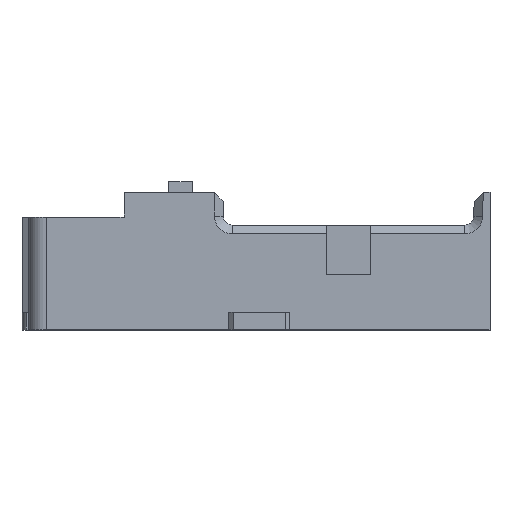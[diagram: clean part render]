
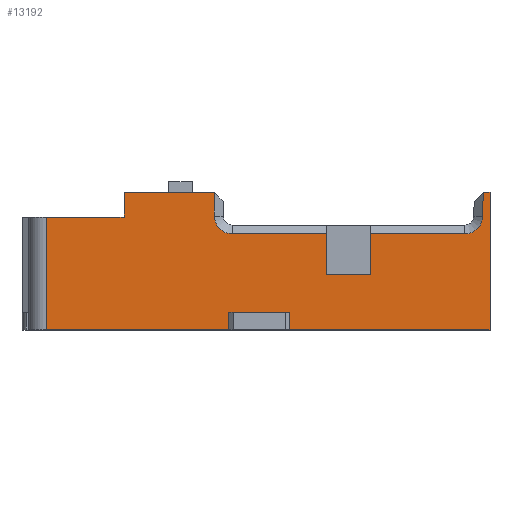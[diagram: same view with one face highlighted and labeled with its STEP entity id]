
A CAD part, top view. The second image highlights one B-rep face of the part: STEP entity #13192.
In plain terms, the highlighted planar face has unit normal (0, 0, 1).
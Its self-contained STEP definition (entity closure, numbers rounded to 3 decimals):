
#296=CIRCLE('',#14015,4.);
#297=CIRCLE('',#14016,4.);
#1040=ORIENTED_EDGE('',*,*,#4566,.F.);
#1041=ORIENTED_EDGE('',*,*,#4982,.T.);
#1042=ORIENTED_EDGE('',*,*,#4614,.T.);
#1043=ORIENTED_EDGE('',*,*,#4983,.T.);
#1044=ORIENTED_EDGE('',*,*,#4984,.T.);
#1045=ORIENTED_EDGE('',*,*,#4985,.F.);
#1046=ORIENTED_EDGE('',*,*,#4609,.T.);
#1047=ORIENTED_EDGE('',*,*,#4986,.F.);
#1048=ORIENTED_EDGE('',*,*,#4987,.T.);
#1049=ORIENTED_EDGE('',*,*,#4988,.T.);
#1050=ORIENTED_EDGE('',*,*,#4623,.T.);
#1051=ORIENTED_EDGE('',*,*,#4989,.F.);
#1052=ORIENTED_EDGE('',*,*,#4990,.F.);
#1053=ORIENTED_EDGE('',*,*,#4991,.T.);
#1054=ORIENTED_EDGE('',*,*,#4992,.T.);
#1055=ORIENTED_EDGE('',*,*,#4993,.T.);
#1056=ORIENTED_EDGE('',*,*,#4994,.F.);
#1057=ORIENTED_EDGE('',*,*,#4995,.F.);
#1058=ORIENTED_EDGE('',*,*,#4996,.T.);
#1059=ORIENTED_EDGE('',*,*,#4997,.T.);
#1060=ORIENTED_EDGE('',*,*,#4998,.T.);
#1061=ORIENTED_EDGE('',*,*,#4999,.T.);
#1062=ORIENTED_EDGE('',*,*,#5000,.F.);
#1063=ORIENTED_EDGE('',*,*,#5001,.F.);
#4566=EDGE_CURVE('',#6555,#6556,#7849,.T.);
#4609=EDGE_CURVE('',#6599,#6598,#7892,.T.);
#4614=EDGE_CURVE('',#6603,#6604,#7896,.T.);
#4623=EDGE_CURVE('',#6613,#6612,#7904,.T.);
#4982=EDGE_CURVE('',#6555,#6603,#8189,.T.);
#4983=EDGE_CURVE('',#6604,#6947,#8190,.T.);
#4984=EDGE_CURVE('',#6947,#6948,#8191,.T.);
#4985=EDGE_CURVE('',#6599,#6948,#8192,.T.);
#4986=EDGE_CURVE('',#6949,#6598,#8193,.T.);
#4987=EDGE_CURVE('',#6949,#6950,#8194,.T.);
#4988=EDGE_CURVE('',#6950,#6613,#8195,.T.);
#4989=EDGE_CURVE('',#6951,#6612,#8196,.T.);
#4990=EDGE_CURVE('',#6952,#6951,#8197,.T.);
#4991=EDGE_CURVE('',#6952,#6953,#8198,.T.);
#4992=EDGE_CURVE('',#6953,#6954,#296,.T.);
#4993=EDGE_CURVE('',#6954,#6955,#8199,.T.);
#4994=EDGE_CURVE('',#6956,#6955,#8200,.T.);
#4995=EDGE_CURVE('',#6957,#6956,#8201,.T.);
#4996=EDGE_CURVE('',#6957,#6958,#8202,.T.);
#4997=EDGE_CURVE('',#6958,#6959,#8203,.T.);
#4998=EDGE_CURVE('',#6959,#6960,#297,.T.);
#4999=EDGE_CURVE('',#6960,#6961,#8204,.T.);
#5000=EDGE_CURVE('',#6962,#6961,#8205,.T.);
#5001=EDGE_CURVE('',#6556,#6962,#8206,.T.);
#6555=VERTEX_POINT('',#18759);
#6556=VERTEX_POINT('',#18761);
#6598=VERTEX_POINT('',#18856);
#6599=VERTEX_POINT('',#18858);
#6603=VERTEX_POINT('',#18867);
#6604=VERTEX_POINT('',#18868);
#6612=VERTEX_POINT('',#18884);
#6613=VERTEX_POINT('',#18886);
#6947=VERTEX_POINT('',#19617);
#6948=VERTEX_POINT('',#19619);
#6949=VERTEX_POINT('',#19622);
#6950=VERTEX_POINT('',#19624);
#6951=VERTEX_POINT('',#19627);
#6952=VERTEX_POINT('',#19629);
#6953=VERTEX_POINT('',#19631);
#6954=VERTEX_POINT('',#19633);
#6955=VERTEX_POINT('',#19635);
#6956=VERTEX_POINT('',#19637);
#6957=VERTEX_POINT('',#19639);
#6958=VERTEX_POINT('',#19641);
#6959=VERTEX_POINT('',#19643);
#6960=VERTEX_POINT('',#19645);
#6961=VERTEX_POINT('',#19647);
#6962=VERTEX_POINT('',#19649);
#7849=LINE('',#18760,#9500);
#7892=LINE('',#18857,#9543);
#7896=LINE('',#18866,#9547);
#7904=LINE('',#18885,#9555);
#8189=LINE('',#19615,#9840);
#8190=LINE('',#19616,#9841);
#8191=LINE('',#19618,#9842);
#8192=LINE('',#19620,#9843);
#8193=LINE('',#19621,#9844);
#8194=LINE('',#19623,#9845);
#8195=LINE('',#19625,#9846);
#8196=LINE('',#19626,#9847);
#8197=LINE('',#19628,#9848);
#8198=LINE('',#19630,#9849);
#8199=LINE('',#19634,#9850);
#8200=LINE('',#19636,#9851);
#8201=LINE('',#19638,#9852);
#8202=LINE('',#19640,#9853);
#8203=LINE('',#19642,#9854);
#8204=LINE('',#19646,#9855);
#8205=LINE('',#19648,#9856);
#8206=LINE('',#19650,#9857);
#9500=VECTOR('',#14994,1000.);
#9543=VECTOR('',#15059,1000.);
#9547=VECTOR('',#15065,1000.);
#9555=VECTOR('',#15075,1000.);
#9840=VECTOR('',#15582,1000.);
#9841=VECTOR('',#15583,1000.);
#9842=VECTOR('',#15584,1000.);
#9843=VECTOR('',#15585,1000.);
#9844=VECTOR('',#15586,1000.);
#9845=VECTOR('',#15587,1000.);
#9846=VECTOR('',#15588,1000.);
#9847=VECTOR('',#15589,1000.);
#9848=VECTOR('',#15590,1000.);
#9849=VECTOR('',#15591,1000.);
#9850=VECTOR('',#15594,1000.);
#9851=VECTOR('',#15595,1000.);
#9852=VECTOR('',#15596,1000.);
#9853=VECTOR('',#15597,1000.);
#9854=VECTOR('',#15598,1000.);
#9855=VECTOR('',#15601,1000.);
#9856=VECTOR('',#15602,1000.);
#9857=VECTOR('',#15603,1000.);
#11175=EDGE_LOOP('',(#1040,#1041,#1042,#1043,#1044,#1045,#1046,#1047,#1048,
#1049,#1050,#1051,#1052,#1053,#1054,#1055,#1056,#1057,#1058,#1059,#1060,
#1061,#1062,#1063));
#11920=FACE_BOUND('',#11175,.T.);
#12655=PLANE('',#14014);
#13192=ADVANCED_FACE('',(#11920),#12655,.F.);
#14014=AXIS2_PLACEMENT_3D('',#19614,#15580,#15581);
#14015=AXIS2_PLACEMENT_3D('',#19632,#15592,#15593);
#14016=AXIS2_PLACEMENT_3D('',#19644,#15599,#15600);
#14994=DIRECTION('',(1.,0.,0.));
#15059=DIRECTION('',(1.,0.,0.));
#15065=DIRECTION('',(1.,0.,0.));
#15075=DIRECTION('',(1.,0.,0.));
#15580=DIRECTION('',(0.,0.,-1.));
#15581=DIRECTION('',(-1.,0.,0.));
#15582=DIRECTION('',(0.,-1.,0.));
#15583=DIRECTION('',(0.,1.,0.));
#15584=DIRECTION('',(1.,0.,0.));
#15585=DIRECTION('',(0.,1.,0.));
#15586=DIRECTION('',(0.,-1.,0.));
#15587=DIRECTION('',(1.,0.,0.));
#15588=DIRECTION('',(0.,-1.,0.));
#15589=DIRECTION('',(0.,-1.,0.));
#15590=DIRECTION('',(1.,0.,0.));
#15591=DIRECTION('',(-0.021,-1.,0.));
#15592=DIRECTION('',(0.,0.,-1.));
#15593=DIRECTION('',(-1.,0.,0.));
#15594=DIRECTION('',(-1.,0.,0.));
#15595=DIRECTION('',(0.,1.,0.));
#15596=DIRECTION('',(1.,0.,0.));
#15597=DIRECTION('',(0.,1.,0.));
#15598=DIRECTION('',(-1.,0.,0.));
#15599=DIRECTION('',(0.,0.,-1.));
#15600=DIRECTION('',(-1.,0.,0.));
#15601=DIRECTION('',(0.001,1.,0.));
#15602=DIRECTION('',(1.,0.,0.));
#15603=DIRECTION('',(0.,1.,0.));
#18759=CARTESIAN_POINT('',(5.5,-0.05,28.));
#18760=CARTESIAN_POINT('',(1.5,-0.05,28.));
#18761=CARTESIAN_POINT('',(23.,-0.05,28.));
#18856=CARTESIAN_POINT('',(57.65,-25.5,28.));
#18857=CARTESIAN_POINT('',(1.5,-25.5,28.));
#18858=CARTESIAN_POINT('',(49.35,-25.5,28.));
#18866=CARTESIAN_POINT('',(1.5,-25.5,28.));
#18867=CARTESIAN_POINT('',(5.5,-25.5,28.));
#18868=CARTESIAN_POINT('',(46.6,-25.5,28.));
#18884=CARTESIAN_POINT('',(105.5,-25.5,28.));
#18885=CARTESIAN_POINT('',(1.5,-25.5,28.));
#18886=CARTESIAN_POINT('',(60.4,-25.5,28.));
#19614=CARTESIAN_POINT('',(1.5,5.5,28.));
#19615=CARTESIAN_POINT('',(5.5,5.5,28.));
#19616=CARTESIAN_POINT('',(46.6,5.5,28.));
#19617=CARTESIAN_POINT('',(46.6,-21.5,28.));
#19618=CARTESIAN_POINT('',(1.5,-21.5,28.));
#19619=CARTESIAN_POINT('',(49.35,-21.5,28.));
#19620=CARTESIAN_POINT('',(49.35,5.5,28.));
#19621=CARTESIAN_POINT('',(57.65,5.5,28.));
#19622=CARTESIAN_POINT('',(57.65,-21.5,28.));
#19623=CARTESIAN_POINT('',(1.5,-21.5,28.));
#19624=CARTESIAN_POINT('',(60.4,-21.5,28.));
#19625=CARTESIAN_POINT('',(60.4,5.5,28.));
#19626=CARTESIAN_POINT('',(105.5,5.5,28.));
#19627=CARTESIAN_POINT('',(105.5,5.5,28.));
#19628=CARTESIAN_POINT('',(1.5,5.5,28.));
#19629=CARTESIAN_POINT('',(103.96,5.5,28.));
#19630=CARTESIAN_POINT('',(103.847,0.066,28.));
#19631=CARTESIAN_POINT('',(103.847,0.066,28.));
#19632=CARTESIAN_POINT('',(99.847,0.15,28.));
#19633=CARTESIAN_POINT('',(99.847,-3.85,28.));
#19634=CARTESIAN_POINT('',(78.594,-3.85,28.));
#19635=CARTESIAN_POINT('',(78.594,-3.85,28.));
#19636=CARTESIAN_POINT('',(78.594,-12.9,28.));
#19637=CARTESIAN_POINT('',(78.594,-12.9,28.));
#19638=CARTESIAN_POINT('',(1.5,-12.9,28.));
#19639=CARTESIAN_POINT('',(68.573,-12.9,28.));
#19640=CARTESIAN_POINT('',(68.573,-12.9,28.));
#19641=CARTESIAN_POINT('',(68.573,-3.85,28.));
#19642=CARTESIAN_POINT('',(47.373,-3.85,28.));
#19643=CARTESIAN_POINT('',(47.373,-3.85,28.));
#19644=CARTESIAN_POINT('',(47.373,0.15,28.));
#19645=CARTESIAN_POINT('',(43.373,0.156,28.));
#19646=CARTESIAN_POINT('',(43.381,5.497,28.));
#19647=CARTESIAN_POINT('',(43.381,5.495,28.));
#19648=CARTESIAN_POINT('',(1.5,5.506,28.));
#19649=CARTESIAN_POINT('',(23.,5.5,28.));
#19650=CARTESIAN_POINT('',(23.,5.5,28.));
